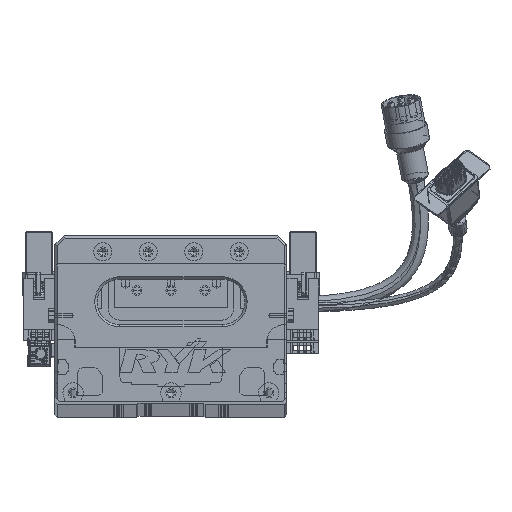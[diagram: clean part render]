
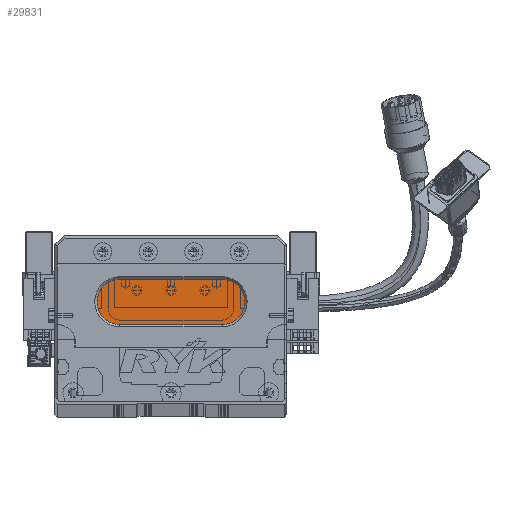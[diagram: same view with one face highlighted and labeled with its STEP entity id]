
A CAD part, top view. The second image highlights one B-rep face of the part: STEP entity #29831.
In plain terms, the highlighted planar face has unit normal (0, 0, 1) as drawn and (0, 0, -1) by its records, which use the part's own axes.
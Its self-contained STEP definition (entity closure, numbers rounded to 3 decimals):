
#439 = DIRECTION ( 'NONE',  ( -1., 0., 0. ) ) ;
#1105 = CARTESIAN_POINT ( 'NONE',  ( 73.5, 34., 13. ) ) ;
#1177 = CARTESIAN_POINT ( 'NONE',  ( 28.5, 54., 13. ) ) ;
#2897 = CARTESIAN_POINT ( 'NONE',  ( 73.5, 34., 13. ) ) ;
#10040 = DIRECTION ( 'NONE',  ( 0., 0., -1. ) ) ;
#10290 = ORIENTED_EDGE ( 'NONE', *, *, #36650, .T. ) ;
#12945 = VERTEX_POINT ( 'NONE', #35013 ) ;
#13876 = AXIS2_PLACEMENT_3D ( 'NONE', #75495, #10040, #92710 ) ;
#16800 = EDGE_CURVE ( 'NONE', #61293, #81915, #46038, .T. ) ;
#22880 = CARTESIAN_POINT ( 'NONE',  ( 73.5, 44., 13. ) ) ;
#23160 = CARTESIAN_POINT ( 'NONE',  ( 73.5, 54., 13. ) ) ;
#25993 = FACE_OUTER_BOUND ( 'NONE', #86164, .T. ) ;
#26592 = EDGE_CURVE ( 'NONE', #12945, #60725, #46707, .T. ) ;
#28188 = DIRECTION ( 'NONE',  ( -1., 0., 0. ) ) ;
#29831 = ADVANCED_FACE ( 'NONE', ( #25993 ), #66873, .T. ) ;
#29900 = CARTESIAN_POINT ( 'NONE',  ( 73.5, 44., 13. ) ) ;
#31509 = CIRCLE ( 'NONE', #54507, 10. ) ;
#32745 = LINE ( 'NONE', #1105, #77165 ) ;
#35013 = CARTESIAN_POINT ( 'NONE',  ( 18.5, 44., 13. ) ) ;
#35962 = VERTEX_POINT ( 'NONE', #50043 ) ;
#36650 = EDGE_CURVE ( 'NONE', #60725, #61293, #52317, .T. ) ;
#42592 = CARTESIAN_POINT ( 'NONE',  ( 73.5, 54., 13. ) ) ;
#46038 = CIRCLE ( 'NONE', #90959, 10. ) ;
#46707 = CIRCLE ( 'NONE', #13876, 10. ) ;
#48743 = ORIENTED_EDGE ( 'NONE', *, *, #16800, .T. ) ;
#50043 = CARTESIAN_POINT ( 'NONE',  ( 28.5, 34., 13. ) ) ;
#51595 = DIRECTION ( 'NONE',  ( 0., 0., -1. ) ) ;
#52317 = LINE ( 'NONE', #23160, #78527 ) ;
#54507 = AXIS2_PLACEMENT_3D ( 'NONE', #86225, #94185, #28188 ) ;
#59583 = DIRECTION ( 'NONE',  ( -1., 0., 0. ) ) ;
#60725 = VERTEX_POINT ( 'NONE', #1177 ) ;
#61293 = VERTEX_POINT ( 'NONE', #42592 ) ;
#66873 = PLANE ( 'NONE',  #77097 ) ;
#67163 = DIRECTION ( 'NONE',  ( 1., 0., 0. ) ) ;
#71157 = EDGE_CURVE ( 'NONE', #35962, #12945, #31509, .T. ) ;
#75495 = CARTESIAN_POINT ( 'NONE',  ( 28.5, 44., 13. ) ) ;
#77097 = AXIS2_PLACEMENT_3D ( 'NONE', #29900, #88249, #81183 ) ;
#77165 = VECTOR ( 'NONE', #59583, 1000. ) ;
#77718 = ORIENTED_EDGE ( 'NONE', *, *, #71157, .T. ) ;
#77983 = ORIENTED_EDGE ( 'NONE', *, *, #87076, .T. ) ;
#78527 = VECTOR ( 'NONE', #67163, 1000. ) ;
#81183 = DIRECTION ( 'NONE',  ( -1., 0., 0. ) ) ;
#81915 = VERTEX_POINT ( 'NONE', #2897 ) ;
#83644 = ORIENTED_EDGE ( 'NONE', *, *, #26592, .T. ) ;
#86164 = EDGE_LOOP ( 'NONE', ( #48743, #77983, #77718, #83644, #10290 ) ) ;
#86225 = CARTESIAN_POINT ( 'NONE',  ( 28.5, 44., 13. ) ) ;
#87076 = EDGE_CURVE ( 'NONE', #81915, #35962, #32745, .T. ) ;
#88249 = DIRECTION ( 'NONE',  ( 0., 0., -1. ) ) ;
#90959 = AXIS2_PLACEMENT_3D ( 'NONE', #22880, #51595, #439 ) ;
#92710 = DIRECTION ( 'NONE',  ( -1., 0., 0. ) ) ;
#94185 = DIRECTION ( 'NONE',  ( 0., 0., -1. ) ) ;
